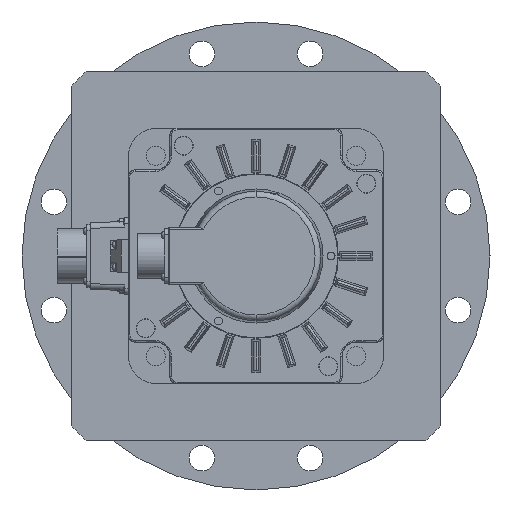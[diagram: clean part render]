
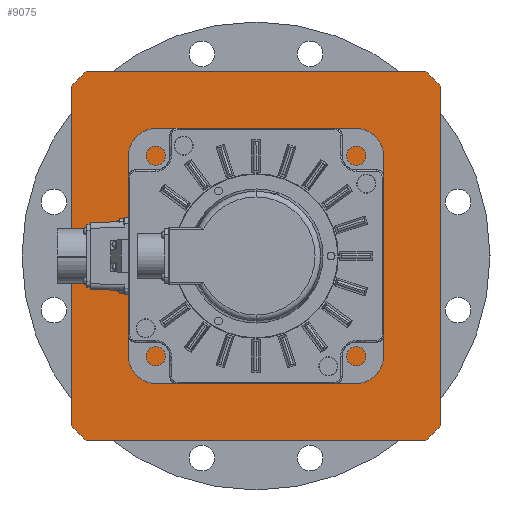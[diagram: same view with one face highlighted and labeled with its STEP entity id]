
A CAD part, left-side view. The second image highlights one B-rep face of the part: STEP entity #9075.
In plain terms, the highlighted planar face has unit normal (-1, 0, 0).
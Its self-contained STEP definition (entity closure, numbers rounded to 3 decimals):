
#615 = VERTEX_POINT ( 'NONE', #11789 ) ;
#864 = EDGE_CURVE ( 'NONE', #8043, #13359, #6974, .T. ) ;
#983 = EDGE_LOOP ( 'NONE', ( #14243, #14503, #23672, #8077, #3708, #9586, #22533, #11914 ) ) ;
#1187 = CARTESIAN_POINT ( 'NONE',  ( -216., 130., -119.769 ) ) ;
#1384 = CARTESIAN_POINT ( 'NONE',  ( -216., 0., 0. ) ) ;
#1410 = CARTESIAN_POINT ( 'NONE',  ( -216., -119.769, 130. ) ) ;
#1567 = FACE_OUTER_BOUND ( 'NONE', #983, .T. ) ;
#1781 = CARTESIAN_POINT ( 'NONE',  ( -216., -119.769, -130. ) ) ;
#2186 = CARTESIAN_POINT ( 'NONE',  ( -216., 0., 0. ) ) ;
#2450 = CARTESIAN_POINT ( 'NONE',  ( -216., 0., 0. ) ) ;
#2584 = CARTESIAN_POINT ( 'NONE',  ( -216., 0., 35.019 ) ) ;
#2869 = DIRECTION ( 'NONE',  ( 0., 1., 0. ) ) ;
#3581 = DIRECTION ( 'NONE',  ( -1., 0., 0. ) ) ;
#3708 = ORIENTED_EDGE ( 'NONE', *, *, #4621, .T. ) ;
#3766 = DIRECTION ( 'NONE',  ( 0., 0., -1. ) ) ;
#4621 = EDGE_CURVE ( 'NONE', #9552, #6490, #10907, .T. ) ;
#5249 = DIRECTION ( 'NONE',  ( 0., 0., 1. ) ) ;
#5295 = VERTEX_POINT ( 'NONE', #12324 ) ;
#5753 = CARTESIAN_POINT ( 'NONE',  ( -216., 0., 0. ) ) ;
#5948 = CARTESIAN_POINT ( 'NONE',  ( -216., -130., 119.769 ) ) ;
#6076 = VERTEX_POINT ( 'NONE', #1410 ) ;
#6490 = VERTEX_POINT ( 'NONE', #17578 ) ;
#6503 = EDGE_CURVE ( 'NONE', #13359, #8043, #12584, .T. ) ;
#6974 = CIRCLE ( 'NONE', #21505, 35.019 ) ;
#7776 = LINE ( 'NONE', #1781, #10098 ) ;
#7930 = CARTESIAN_POINT ( 'NONE',  ( -216., 0., 0. ) ) ;
#8043 = VERTEX_POINT ( 'NONE', #15433 ) ;
#8077 = ORIENTED_EDGE ( 'NONE', *, *, #17936, .T. ) ;
#8101 = VECTOR ( 'NONE', #3766, 1000. ) ;
#8343 = CARTESIAN_POINT ( 'NONE',  ( -216., 0., 0. ) ) ;
#9075 = ADVANCED_FACE ( 'NONE', ( #1567, #15754 ), #9801, .T. ) ;
#9254 = CIRCLE ( 'NONE', #21736, 176.762 ) ;
#9552 = VERTEX_POINT ( 'NONE', #1187 ) ;
#9586 = ORIENTED_EDGE ( 'NONE', *, *, #12471, .T. ) ;
#9801 = PLANE ( 'NONE',  #16833 ) ;
#9908 = VERTEX_POINT ( 'NONE', #5948 ) ;
#10098 = VECTOR ( 'NONE', #10925, 1000. ) ;
#10623 = CIRCLE ( 'NONE', #22084, 176.762 ) ;
#10907 = CIRCLE ( 'NONE', #12572, 176.762 ) ;
#10921 = EDGE_CURVE ( 'NONE', #9908, #6076, #13615, .T. ) ;
#10925 = DIRECTION ( 'NONE',  ( 0., -1., 0. ) ) ;
#11789 = CARTESIAN_POINT ( 'NONE',  ( -216., -130., -119.769 ) ) ;
#11914 = ORIENTED_EDGE ( 'NONE', *, *, #21158, .T. ) ;
#11956 = CARTESIAN_POINT ( 'NONE',  ( -216., -130., -119.769 ) ) ;
#12324 = CARTESIAN_POINT ( 'NONE',  ( -216., 130., 119.769 ) ) ;
#12471 = EDGE_CURVE ( 'NONE', #6490, #21445, #7776, .T. ) ;
#12572 = AXIS2_PLACEMENT_3D ( 'NONE', #7930, #19170, #22897 ) ;
#12584 = CIRCLE ( 'NONE', #14756, 35.019 ) ;
#12881 = CARTESIAN_POINT ( 'NONE',  ( -216., 119.769, 130. ) ) ;
#12953 = DIRECTION ( 'NONE',  ( 0., 0., 1. ) ) ;
#13138 = AXIS2_PLACEMENT_3D ( 'NONE', #1384, #14456, #5249 ) ;
#13359 = VERTEX_POINT ( 'NONE', #2584 ) ;
#13615 = CIRCLE ( 'NONE', #13138, 176.762 ) ;
#13709 = DIRECTION ( 'NONE',  ( 0., 0., 1. ) ) ;
#14117 = EDGE_CURVE ( 'NONE', #6076, #19969, #22218, .T. ) ;
#14243 = ORIENTED_EDGE ( 'NONE', *, *, #10921, .T. ) ;
#14456 = DIRECTION ( 'NONE',  ( -1., 0., 0. ) ) ;
#14503 = ORIENTED_EDGE ( 'NONE', *, *, #14117, .T. ) ;
#14756 = AXIS2_PLACEMENT_3D ( 'NONE', #8343, #23258, #21221 ) ;
#14778 = LINE ( 'NONE', #20259, #8101 ) ;
#14794 = ORIENTED_EDGE ( 'NONE', *, *, #864, .F. ) ;
#14937 = LINE ( 'NONE', #11956, #15810 ) ;
#15378 = DIRECTION ( 'NONE',  ( 0., 0., 1. ) ) ;
#15433 = CARTESIAN_POINT ( 'NONE',  ( -216., 0., -35.019 ) ) ;
#15754 = FACE_BOUND ( 'NONE', #23790, .T. ) ;
#15810 = VECTOR ( 'NONE', #13709, 1000. ) ;
#16833 = AXIS2_PLACEMENT_3D ( 'NONE', #22770, #18949, #22918 ) ;
#17578 = CARTESIAN_POINT ( 'NONE',  ( -216., 119.769, -130. ) ) ;
#17936 = EDGE_CURVE ( 'NONE', #5295, #9552, #14778, .T. ) ;
#18367 = EDGE_CURVE ( 'NONE', #21445, #615, #9254, .T. ) ;
#18760 = DIRECTION ( 'NONE',  ( -1., 0., 0. ) ) ;
#18949 = DIRECTION ( 'NONE',  ( -1., 0., 0. ) ) ;
#18960 = DIRECTION ( 'NONE',  ( -1., 0., 0. ) ) ;
#19170 = DIRECTION ( 'NONE',  ( -1., 0., 0. ) ) ;
#19775 = CARTESIAN_POINT ( 'NONE',  ( -216., -119.769, 130. ) ) ;
#19969 = VERTEX_POINT ( 'NONE', #12881 ) ;
#20259 = CARTESIAN_POINT ( 'NONE',  ( -216., 130., -119.769 ) ) ;
#20449 = DIRECTION ( 'NONE',  ( 0., 0., 1. ) ) ;
#20564 = EDGE_CURVE ( 'NONE', #19969, #5295, #10623, .T. ) ;
#21158 = EDGE_CURVE ( 'NONE', #615, #9908, #14937, .T. ) ;
#21221 = DIRECTION ( 'NONE',  ( 0., 0., 1. ) ) ;
#21445 = VERTEX_POINT ( 'NONE', #23943 ) ;
#21505 = AXIS2_PLACEMENT_3D ( 'NONE', #2186, #18760, #20449 ) ;
#21701 = ORIENTED_EDGE ( 'NONE', *, *, #6503, .F. ) ;
#21736 = AXIS2_PLACEMENT_3D ( 'NONE', #5753, #3581, #12953 ) ;
#22084 = AXIS2_PLACEMENT_3D ( 'NONE', #2450, #18960, #15378 ) ;
#22187 = VECTOR ( 'NONE', #2869, 1000. ) ;
#22218 = LINE ( 'NONE', #19775, #22187 ) ;
#22533 = ORIENTED_EDGE ( 'NONE', *, *, #18367, .T. ) ;
#22770 = CARTESIAN_POINT ( 'NONE',  ( -216., 0., 0. ) ) ;
#22897 = DIRECTION ( 'NONE',  ( 0., 0., 1. ) ) ;
#22918 = DIRECTION ( 'NONE',  ( 0., 0., 1. ) ) ;
#23258 = DIRECTION ( 'NONE',  ( -1., 0., 0. ) ) ;
#23672 = ORIENTED_EDGE ( 'NONE', *, *, #20564, .T. ) ;
#23790 = EDGE_LOOP ( 'NONE', ( #14794, #21701 ) ) ;
#23943 = CARTESIAN_POINT ( 'NONE',  ( -216., -119.769, -130. ) ) ;
